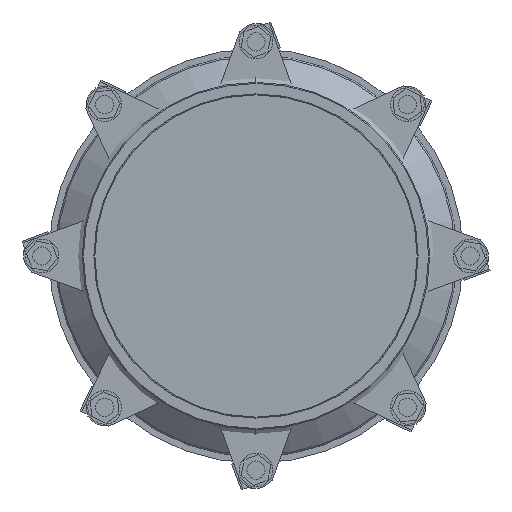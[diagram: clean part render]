
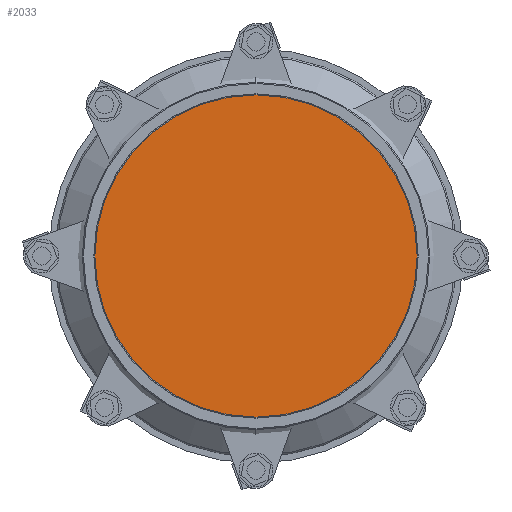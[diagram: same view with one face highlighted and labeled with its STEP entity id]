
A CAD part, left-side view. The second image highlights one B-rep face of the part: STEP entity #2033.
In plain terms, the highlighted planar face has unit normal (-1, 0, 0).
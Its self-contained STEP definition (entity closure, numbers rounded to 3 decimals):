
#2033=ADVANCED_FACE('',(#3879),#3880,.T.);
#3879=FACE_OUTER_BOUND('',#5797,.T.);
#3880=PLANE('',#5798);
#5797=EDGE_LOOP('',(#10231,#10232));
#5798=AXIS2_PLACEMENT_3D('',#10233,#10234,#10235);
#10231=ORIENTED_EDGE('',*,*,#11868,.T.);
#10232=ORIENTED_EDGE('',*,*,#11359,.T.);
#10233=CARTESIAN_POINT('',(-494.,-343.822,198.498));
#10234=DIRECTION('',(-1.0,0.0,0.));
#10235=DIRECTION('',(0.,0.0,1.0));
#11359=EDGE_CURVE('',#13707,#13705,#13708,.T.);
#11868=EDGE_CURVE('',#13705,#13707,#14441,.T.);
#13705=VERTEX_POINT('',#16793);
#13707=VERTEX_POINT('',#16796);
#13708=CIRCLE('',#16797,189.5);
#14441=CIRCLE('',#17770,189.5);
#16793=CARTESIAN_POINT('',(-494.,-343.822,8.998));
#16796=CARTESIAN_POINT('',(-494.,-343.822,387.998));
#16797=AXIS2_PLACEMENT_3D('',#19504,#19505,#19506);
#17770=AXIS2_PLACEMENT_3D('',#20146,#20147,#20148);
#19504=CARTESIAN_POINT('',(-494.,-343.822,198.498));
#19505=DIRECTION('',(-1.0,0.0,0.));
#19506=DIRECTION('',(0.,0.0,-1.0));
#20146=CARTESIAN_POINT('',(-494.,-343.822,198.498));
#20147=DIRECTION('',(-1.0,0.0,0.));
#20148=DIRECTION('',(0.,0.0,-1.0));
